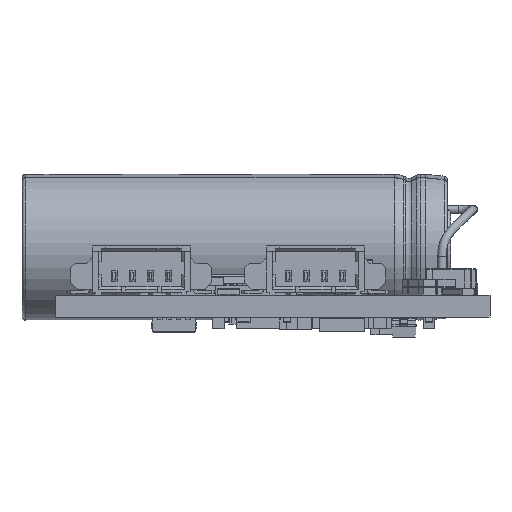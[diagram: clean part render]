
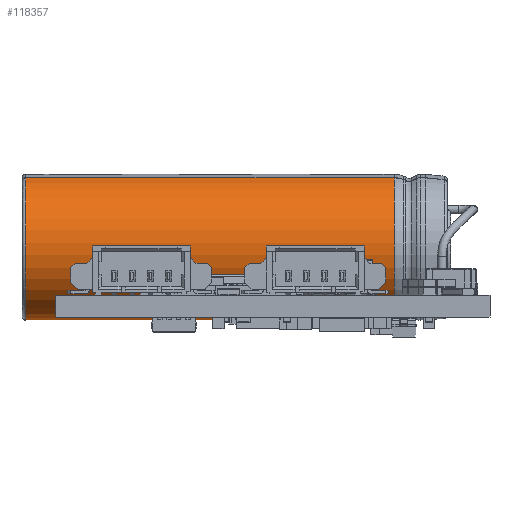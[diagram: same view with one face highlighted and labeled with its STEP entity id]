
A CAD part, front view. The second image highlights one B-rep face of the part: STEP entity #118357.
In plain terms, the highlighted cylindrical face has radius 5.05 mm (diameter 10.1 mm), a partial arc.
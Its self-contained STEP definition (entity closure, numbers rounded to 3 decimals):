
#117338 = VERTEX_POINT('',#117339);
#117339 = CARTESIAN_POINT('',(-28.6,-1.519,
    2.616));
#117346 = EDGE_CURVE('',#117347,#117338,#117349,.T.);
#117347 = VERTEX_POINT('',#117348);
#117348 = CARTESIAN_POINT('',(-3.12,-1.519,2.616
    ));
#117349 = LINE('',#117350,#117351);
#117350 = CARTESIAN_POINT('',(-15.86,-1.519,
    2.616));
#117351 = VECTOR('',#117352,1.);
#117352 = DIRECTION('',(-1.,0.,0.));
#118092 = VERTEX_POINT('',#118093);
#118093 = CARTESIAN_POINT('',(-3.12,1.519,2.616)
  );
#118100 = EDGE_CURVE('',#118101,#118092,#118103,.T.);
#118101 = VERTEX_POINT('',#118102);
#118102 = CARTESIAN_POINT('',(-28.6,1.519,2.616
    ));
#118103 = LINE('',#118104,#118105);
#118104 = CARTESIAN_POINT('',(-15.86,1.519,2.616
    ));
#118105 = VECTOR('',#118106,1.);
#118106 = DIRECTION('',(1.,0.,0.));
#118344 = EDGE_CURVE('',#118092,#117347,#118345,.T.);
#118345 = CIRCLE('',#118346,5.05);
#118346 = AXIS2_PLACEMENT_3D('',#118347,#118348,#118349);
#118347 = CARTESIAN_POINT('',(-3.12,0.,-2.2));
#118348 = DIRECTION('',(-1.,0.,0.));
#118349 = DIRECTION('',(0.,0.,1.));
#118357 = ADVANCED_FACE('',(#118358),#118370,.T.);
#118358 = FACE_BOUND('',#118359,.T.);
#118359 = EDGE_LOOP('',(#118360,#118361,#118368,#118369));
#118360 = ORIENTED_EDGE('',*,*,#117346,.T.);
#118361 = ORIENTED_EDGE('',*,*,#118362,.F.);
#118362 = EDGE_CURVE('',#118101,#117338,#118363,.T.);
#118363 = CIRCLE('',#118364,5.05);
#118364 = AXIS2_PLACEMENT_3D('',#118365,#118366,#118367);
#118365 = CARTESIAN_POINT('',(-28.6,0.,-2.2));
#118366 = DIRECTION('',(-1.,0.,0.));
#118367 = DIRECTION('',(0.,0.,1.));
#118368 = ORIENTED_EDGE('',*,*,#118100,.T.);
#118369 = ORIENTED_EDGE('',*,*,#118344,.T.);
#118370 = CYLINDRICAL_SURFACE('',#118371,5.05);
#118371 = AXIS2_PLACEMENT_3D('',#118372,#118373,#118374);
#118372 = CARTESIAN_POINT('',(-15.86,0.,-2.2));
#118373 = DIRECTION('',(-1.,0.,0.));
#118374 = DIRECTION('',(0.,0.,-1.));
